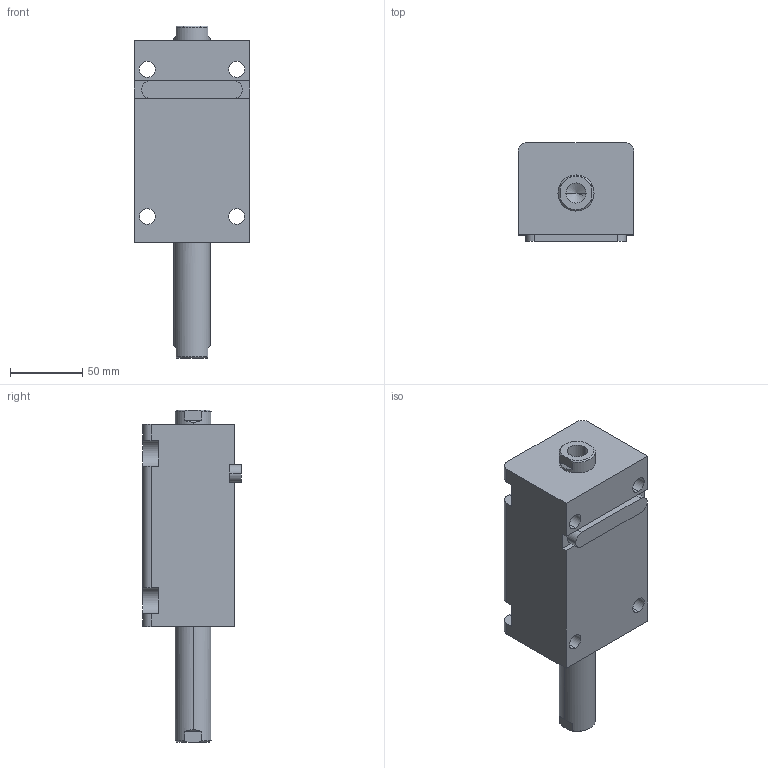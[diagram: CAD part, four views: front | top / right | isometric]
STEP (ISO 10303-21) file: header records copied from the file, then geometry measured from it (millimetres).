
FILE_DESCRIPTION (( 'STEP AP203' ), '1' );
FILE_NAME ('HTB-LW40-70N.STEP', '2019-10-09T07:57:39', ( '微软用户' ), ( '微软中国' ), 'SwSTEP 2.0', 'SolidWorks 2012', '' );
FILE_SCHEMA (( 'CONFIG_CONTROL_DESIGN' ));
Length unit declared in the file: millimetre
Products named in the file (4): HTB-LW40-70N; HTB-LA40-瑩; HTB-LW40-70N活塞杆; HTB-LW40-70掛极
Assembly tree (3 placements, depth 2):
  HTB-LW40-70N
    HTB-LW40-70掛极
    HTB-LW40-70N活塞杆
    HTB-LA40-瑩
Bounding box: 80 x 68.5 x 230 mm (x, y, z)
Volume: 666180.5 mm3; surface area: 100589.6 mm2
Topology: 3 solids, 3 shells, 105 faces, 261 edges, 168 vertices
Faces by surface type: plane 44, cylinder 41, cone 12, torus 8
Entity records: 3567 total; most frequent: CARTESIAN_POINT 588, DIRECTION 573, ORIENTED_EDGE 514, EDGE_CURVE 257, AXIS2_PLACEMENT_3D 221, VERTEX_POINT 168, LINE 131, VECTOR 131
